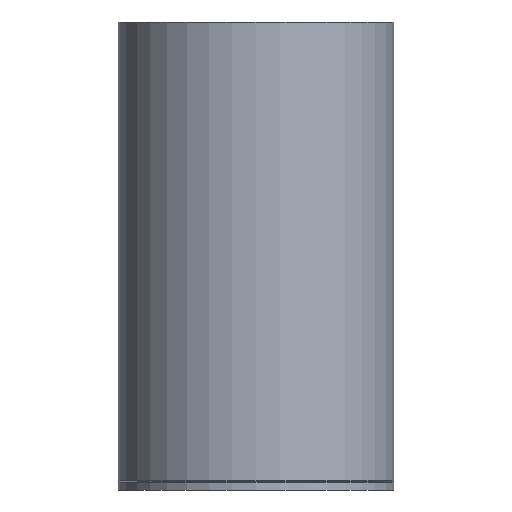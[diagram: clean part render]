
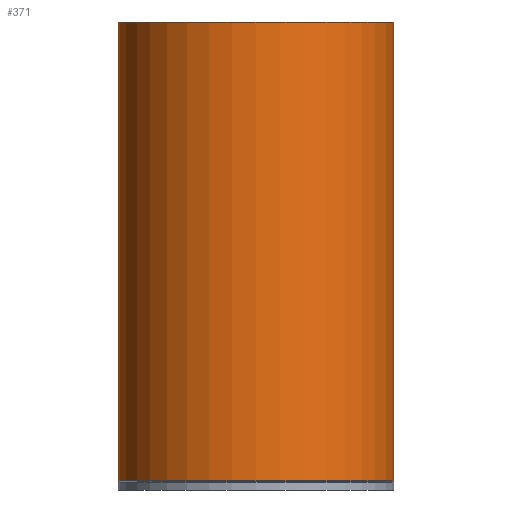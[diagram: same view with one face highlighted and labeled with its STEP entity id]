
A CAD part, front view. The second image highlights one B-rep face of the part: STEP entity #371.
In plain terms, the highlighted cylindrical face has radius 30 mm (diameter 60 mm), a partial arc.
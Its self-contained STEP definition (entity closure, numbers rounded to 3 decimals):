
#6=CARTESIAN_POINT('',(-9.5,-30.,99.8));
#7=DIRECTION('',(0.,0.,1.));
#8=DIRECTION('',(-1.,0.,0.));
#9=AXIS2_PLACEMENT_3D('',#6,#7,#8);
#21=DIRECTION('',(0.,0.,-1.));
#22=VECTOR('',#21,99.8);
#23=CARTESIAN_POINT('',(20.5,-30.,99.8));
#24=LINE('',#23,#22);
#43=DIRECTION('',(0.,0.,-1.));
#44=VECTOR('',#43,99.8);
#45=CARTESIAN_POINT('',(-39.5,-30.,99.8));
#46=LINE('',#45,#44);
#52=CARTESIAN_POINT('',(-9.5,-30.,0.));
#53=DIRECTION('',(0.,0.,-1.));
#54=DIRECTION('',(1.,0.,0.));
#55=AXIS2_PLACEMENT_3D('',#52,#53,#54);
#254=CARTESIAN_POINT('',(-39.5,-30.,99.8));
#255=CARTESIAN_POINT('',(-39.5,-30.,
0.));
#256=VERTEX_POINT('',#254);
#257=VERTEX_POINT('',#255);
#258=CARTESIAN_POINT('',(20.5,-30.,99.8));
#259=CARTESIAN_POINT('',(20.5,-30.,0.));
#260=VERTEX_POINT('',#258);
#261=VERTEX_POINT('',#259);
#359=CARTESIAN_POINT('',(-9.5,-30.,49.8));
#360=DIRECTION('',(0.,0.,-1.));
#361=DIRECTION('',(1.,0.,0.));
#362=AXIS2_PLACEMENT_3D('',#359,#360,#361);
#363=CYLINDRICAL_SURFACE('',#362,30.);
#364=ORIENTED_EDGE('',*,*,#339,.F.);
#365=ORIENTED_EDGE('',*,*,#323,.T.);
#366=ORIENTED_EDGE('',*,*,#343,.T.);
#368=ORIENTED_EDGE('',*,*,#367,.T.);
#369=EDGE_LOOP('',(#364,#365,#366,#368));
#370=FACE_OUTER_BOUND('',#369,.F.);
#371=ADVANCED_FACE('',(#370),#363,.T.);
#10=CIRCLE('',#9,30.);
#56=CIRCLE('',#55,30.);
#323=EDGE_CURVE('',#256,#260,#10,.T.);
#339=EDGE_CURVE('',#256,#257,#46,.T.);
#343=EDGE_CURVE('',#260,#261,#24,.T.);
#367=EDGE_CURVE('',#261,#257,#56,.T.);
